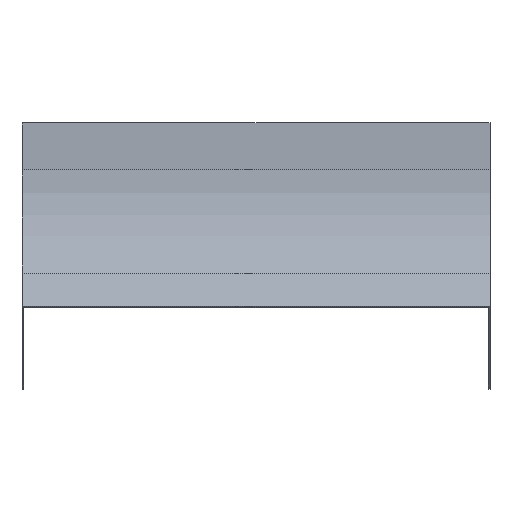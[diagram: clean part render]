
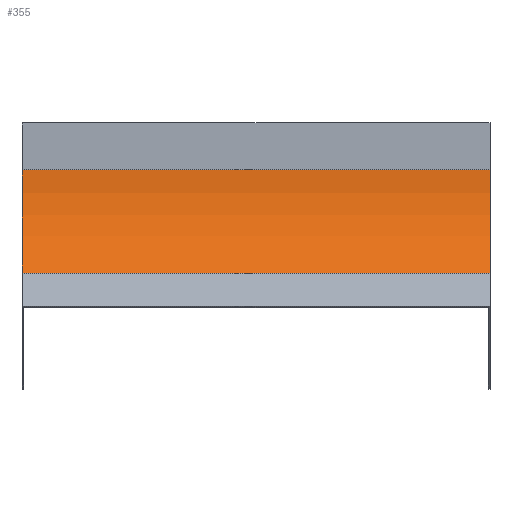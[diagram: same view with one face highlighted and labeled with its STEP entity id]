
A CAD part, front view. The second image highlights one B-rep face of the part: STEP entity #355.
In plain terms, the highlighted cylindrical face has radius 125 mm (diameter 250 mm), a partial arc.
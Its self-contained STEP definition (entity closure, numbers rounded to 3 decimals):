
#71 = CARTESIAN_POINT ( 'NONE',  ( -200., -36.612, -128.388 ) ) ;
#194 = DIRECTION ( 'NONE',  ( 0., 0., 1. ) ) ;
#225 = CARTESIAN_POINT ( 'NONE',  ( -200., -125., -40. ) ) ;
#243 = FACE_OUTER_BOUND ( 'NONE', #508, .T. ) ;
#265 = DIRECTION ( 'NONE',  ( 0., 0., 1. ) ) ;
#290 = DIRECTION ( 'NONE',  ( -1., 0., 0. ) ) ;
#302 = AXIS2_PLACEMENT_3D ( 'NONE', #902, #1261, #1283 ) ;
#337 = EDGE_CURVE ( 'NONE', #347, #1164, #747, .T. ) ;
#347 = VERTEX_POINT ( 'NONE', #884 ) ;
#355 = ADVANCED_FACE ( 'NONE', ( #243 ), #509, .F. ) ;
#376 = DIRECTION ( 'NONE',  ( -1., 0., 0. ) ) ;
#427 = CARTESIAN_POINT ( 'NONE',  ( 200., -36.612, -128.388 ) ) ;
#474 = ORIENTED_EDGE ( 'NONE', *, *, #1025, .T. ) ;
#488 = ORIENTED_EDGE ( 'NONE', *, *, #337, .T. ) ;
#508 = EDGE_LOOP ( 'NONE', ( #474, #835, #1461, #488 ) ) ;
#509 = CYLINDRICAL_SURFACE ( 'NONE', #302, 125. ) ;
#526 = CARTESIAN_POINT ( 'NONE',  ( -200., 0., -40. ) ) ;
#623 = VERTEX_POINT ( 'NONE', #1065 ) ;
#648 = CIRCLE ( 'NONE', #1352, 125. ) ;
#747 = LINE ( 'NONE', #775, #888 ) ;
#775 = CARTESIAN_POINT ( 'NONE',  ( 200., 0., -40. ) ) ;
#835 = ORIENTED_EDGE ( 'NONE', *, *, #1324, .F. ) ;
#884 = CARTESIAN_POINT ( 'NONE',  ( 200., 0., -40. ) ) ;
#888 = VECTOR ( 'NONE', #376, 1000. ) ;
#902 = CARTESIAN_POINT ( 'NONE',  ( 200., -125., -40. ) ) ;
#949 = AXIS2_PLACEMENT_3D ( 'NONE', #1010, #1138, #265 ) ;
#1010 = CARTESIAN_POINT ( 'NONE',  ( 200., -125., -40. ) ) ;
#1025 = EDGE_CURVE ( 'NONE', #1164, #1472, #648, .T. ) ;
#1065 = CARTESIAN_POINT ( 'NONE',  ( 200., -36.612, -128.388 ) ) ;
#1138 = DIRECTION ( 'NONE',  ( -1., 0., 0. ) ) ;
#1164 = VERTEX_POINT ( 'NONE', #526 ) ;
#1184 = CIRCLE ( 'NONE', #949, 125. ) ;
#1188 = EDGE_CURVE ( 'NONE', #347, #623, #1184, .T. ) ;
#1261 = DIRECTION ( 'NONE',  ( -1., 0., 0. ) ) ;
#1283 = DIRECTION ( 'NONE',  ( 0., 0., 1. ) ) ;
#1324 = EDGE_CURVE ( 'NONE', #623, #1472, #1438, .T. ) ;
#1350 = DIRECTION ( 'NONE',  ( -1., 0., 0. ) ) ;
#1352 = AXIS2_PLACEMENT_3D ( 'NONE', #225, #1350, #194 ) ;
#1438 = LINE ( 'NONE', #427, #1567 ) ;
#1461 = ORIENTED_EDGE ( 'NONE', *, *, #1188, .F. ) ;
#1472 = VERTEX_POINT ( 'NONE', #71 ) ;
#1567 = VECTOR ( 'NONE', #290, 1000. ) ;
